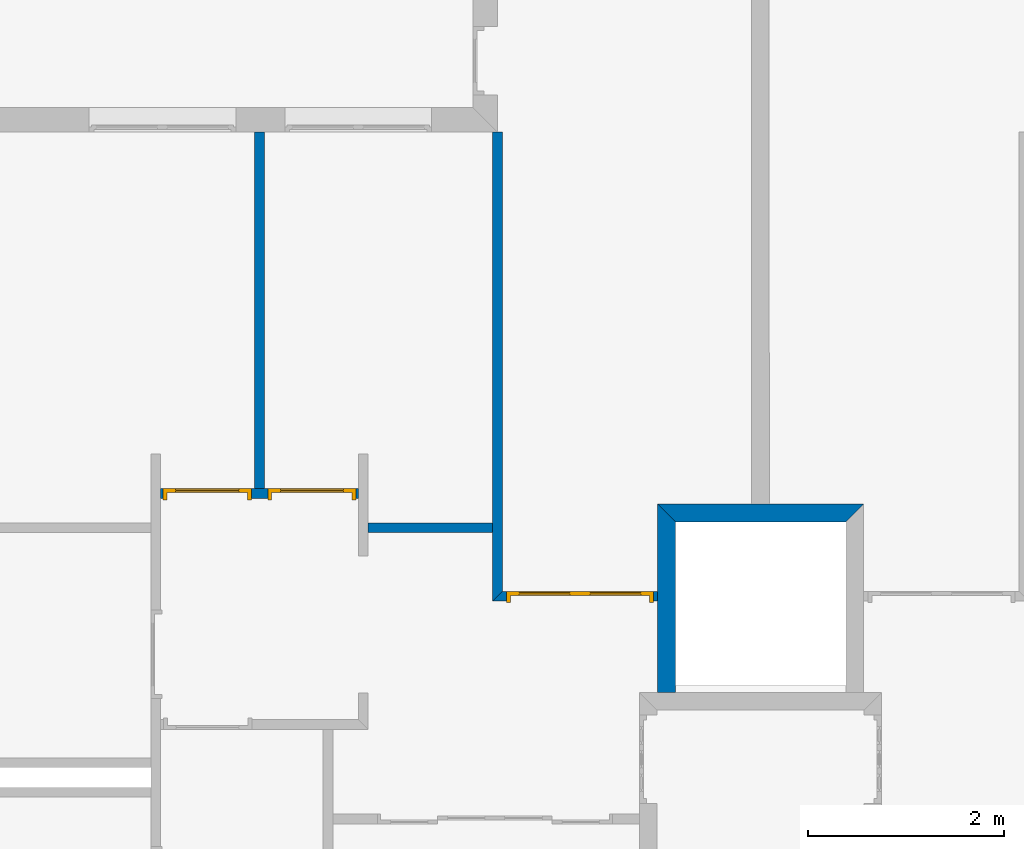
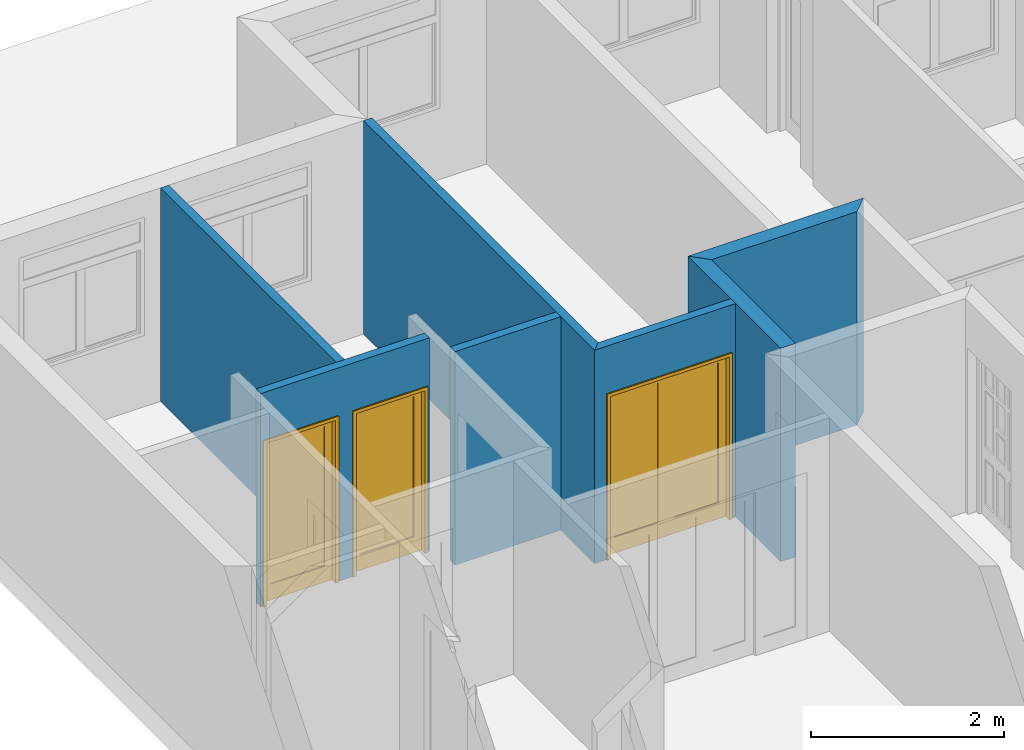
# One storey, part 9 of 12: 7 walls, 3 doors, 3 openings.
"""IFC2X3 building model written with IfcOpenShell, lengths in metres."""

import ifcopenshell
import ifcopenshell.guid

model = None  # the IFC model being written
_history = None  # IfcOwnerHistory: only IFC2X3 demands one
_inside = {}  # id of a spatial element -> (the spatial element, [elements in it])
_under = {}  # id of a project, library or spatial element -> (it, [spatial elements below it])
_declared = {}  # id of a project -> (the project, [libraries it declares])
_typed = {}  # id of a type object -> (the type object, [elements of that type])
_made_of = {}  # id of a material, layer set ... -> (it, [elements and type objects made of it])


def new_model(schema):
    """Start an empty IFC model of exactly this schema.

    Asked for "IFC4X3", IfcOpenShell would pick the latest addendum, in which some entities
    have other attributes; the version numbers below select the first issue.
    IFC2X3 requires an IfcOwnerHistory on every rooted entity: one is made here for all.
    """
    global model, _history
    if schema == "IFC4X3":
        model = ifcopenshell.file(schema_version=(4, 3, 0, 0))
    else:
        model = ifcopenshell.file(schema=schema)
    _inside.clear()
    _under.clear()
    _declared.clear()
    _typed.clear()
    _made_of.clear()
    _history = None
    if model.schema == "IFC2X3":
        org = make("IfcOrganization", Name="unknown")
        user = make(
            "IfcPersonAndOrganization",
            ThePerson=make("IfcPerson", FamilyName="unknown"),
            TheOrganization=org,
        )
        app = make(
            "IfcApplication",
            ApplicationDeveloper=org,
            Version="unknown",
            ApplicationFullName="unknown",
            ApplicationIdentifier="unknown",
        )
        _history = make(
            "IfcOwnerHistory",
            OwningUser=user,
            OwningApplication=app,
            ChangeAction="ADDED",
            CreationDate=0,
        )
    return model


def make(cls, **values):
    """One entity of the class cls with the attributes given. An attribute that is None is left unset."""
    return model.create_entity(
        cls, **{name: value for name, value in values.items() if value is not None}
    )


def entity(cls, *values):
    """Any entity or typed value of the class cls, its attributes in the order of the schema. None: left unset."""
    e = model.create_entity(cls)
    for i, value in enumerate(values):
        if value is not None:
            e[i] = value
    return e


def rooted(cls, **values):
    """An entity with a GlobalId (a new one), such as an element, a storey or a relation."""
    return make(cls, GlobalId=ifcopenshell.guid.new(), OwnerHistory=_history, **values)


def si_unit(unit_type, name, prefix=None):
    """IfcSIUnit, for example si_unit("LENGTHUNIT", "METRE", prefix="MILLI")."""
    return make("IfcSIUnit", UnitType=unit_type, Prefix=prefix, Name=name)


def converted_unit(unit_type, name, factor, base, dimensions=None, offset=None):
    """IfcConversionBasedUnit, such as the inch: factor (a typed value) times the base unit."""
    return make(
        "IfcConversionBasedUnit"
        if offset is None
        else "IfcConversionBasedUnitWithOffset",
        ConversionOffset=offset,
        Dimensions=None
        if dimensions is None
        else entity("IfcDimensionalExponents", *dimensions),
        UnitType=unit_type,
        Name=name,
        ConversionFactor=make(
            "IfcMeasureWithUnit", ValueComponent=factor, UnitComponent=base
        ),
    )


def assignment(units):
    """IfcUnitAssignment: the units of a project."""
    return None if units is None else make("IfcUnitAssignment", Units=units)


def point(xyz):
    """IfcCartesianPoint."""
    return None if xyz is None else make("IfcCartesianPoint", Coordinates=xyz)


def direction(xyz):
    """IfcDirection."""
    return None if xyz is None else make("IfcDirection", DirectionRatios=xyz)


def frame(location, z_axis=None, x_axis=None):
    """IfcAxis2Placement3D, a coordinate frame: its origin and axes. An axis left out is left unset."""
    return make(
        "IfcAxis2Placement3D",
        Location=point(location),
        Axis=direction(z_axis),
        RefDirection=direction(x_axis),
    )


def frame_2d(location, x_axis=None):
    """IfcAxis2Placement2D, a coordinate frame in the plane: its origin and x axis."""
    return make(
        "IfcAxis2Placement2D", Location=point(location), RefDirection=direction(x_axis)
    )


def origin_with_axes():
    """The frame at (0, 0, 0) with the z axis (0, 0, 1) and the x axis (1, 0, 0) written out."""
    return frame((0.0, 0.0, 0.0), z_axis=(0.0, 0.0, 1.0), x_axis=(1.0, 0.0, 0.0))


def place(relative_to, where):
    """IfcLocalPlacement: puts the frame where relative to a parent placement (None: the world)."""
    return make(
        "IfcLocalPlacement", PlacementRelTo=relative_to, RelativePlacement=where
    )


def context(
    kind, dimensions, precision=None, world=None, true_north=None, identifier=None
):
    """IfcGeometricRepresentationContext, for example the 3D "Model" context."""
    return make(
        "IfcGeometricRepresentationContext",
        ContextIdentifier=identifier,
        ContextType=kind,
        CoordinateSpaceDimension=dimensions,
        Precision=precision,
        WorldCoordinateSystem=world,
        TrueNorth=true_north,
    )


def project(units=None, contexts=None):
    """IfcProject with its units and contexts."""
    return rooted(
        "IfcProject",
        Name="project",
        RepresentationContexts=contexts,
        UnitsInContext=assignment(units),
    )


def spatial(cls, under=None, at=None, **own):
    """A site, building, storey or space (cls), placed at a placement, below another one or the project."""
    s = rooted(cls, ObjectPlacement=at, **own)
    if under is not None:
        _under.setdefault(under.id(), (under, []))[1].append(s)
    return s


def polyline(points):
    """IfcPolyline through the points."""
    return make("IfcPolyline", Points=[point(p) for p in points])


def profile(cls, at=None, kind="AREA", **sizes):
    """A parametric profile (cls). Its sizes go by their IFC names, for example OverallWidth=200.0."""
    return make(cls, ProfileType=kind, Position=at, **sizes)


def rectangle(**sizes):
    """IfcRectangleProfileDef."""
    return profile("IfcRectangleProfileDef", **sizes)


def outline(outer, holes=None, kind="AREA"):
    """IfcArbitraryClosedProfileDef: a profile drawn as a closed curve; with holes, ...WithVoids."""
    if holes is None:
        return make("IfcArbitraryClosedProfileDef", ProfileType=kind, OuterCurve=outer)
    return make(
        "IfcArbitraryProfileDefWithVoids",
        ProfileType=kind,
        OuterCurve=outer,
        InnerCurves=holes,
    )


def extrude(swept, where, along, depth):
    """IfcExtrudedAreaSolid: the profile swept, set in the frame where, extruded along a direction by depth."""
    return make(
        "IfcExtrudedAreaSolid",
        SweptArea=swept,
        Position=where,
        ExtrudedDirection=direction(along),
        Depth=depth,
    )


def faces_of(points, faces, orient=None, outer=None):
    """IfcFace entities. A face is a list of loops; a loop is a list of indices into points, from 0.

    orient and outer hold one flag for each loop. By default every Orientation is true, the
    first loop of a face is its IfcFaceOuterBound and the others are IfcFaceBound.
    """
    made = []
    for i, loops in enumerate(faces):
        bounds = []
        for j, loop in enumerate(loops):
            is_outer = j == 0 if outer is None else outer[i][j]
            bounds.append(
                make(
                    "IfcFaceOuterBound" if is_outer else "IfcFaceBound",
                    Bound=make("IfcPolyLoop", Polygon=[points[k] for k in loop]),
                    Orientation=True if orient is None else orient[i][j],
                )
            )
        made.append(make("IfcFace", Bounds=bounds))
    return made


def faceted_brep(points, faces, orient=None, outer=None, voids=None):
    """IfcFacetedBrep: a solid bounded by flat faces; with voids (closed shells), ...WithVoids."""
    shared = [point(p) for p in points]
    hull = make("IfcClosedShell", CfsFaces=faces_of(shared, faces, orient, outer))
    if voids is None:
        return make("IfcFacetedBrep", Outer=hull)
    return make(
        "IfcFacetedBrepWithVoids",
        Outer=hull,
        Voids=[
            make(cls, CfsFaces=faces_of(shared, fs, o, b)) for cls, fs, o, b in voids
        ],
    )


def shape(context_of_items, identifier, shape_type, items):
    """IfcShapeRepresentation: the items that make up one representation, for example the "Body"."""
    return make(
        "IfcShapeRepresentation",
        ContextOfItems=context_of_items,
        RepresentationIdentifier=identifier,
        RepresentationType=shape_type,
        Items=items,
    )


def source(mapping_origin, context_of_items, identifier, shape_type, items):
    """IfcRepresentationMap: a shape defined once, which mapped items show again and again."""
    return make(
        "IfcRepresentationMap",
        MappingOrigin=mapping_origin,
        MappedRepresentation=shape(context_of_items, identifier, shape_type, items),
    )


def transform(
    local_origin,
    x_axis=None,
    y_axis=None,
    z_axis=None,
    scale=None,
    scale2=None,
    scale3=None,
    uniform=True,
):
    """IfcCartesianTransformationOperator3D, or its non-uniform kind. x_axis, y_axis, z_axis: its Axis1, 2, 3."""
    if uniform:
        return make(
            "IfcCartesianTransformationOperator3D",
            Axis1=direction(x_axis),
            Axis2=direction(y_axis),
            LocalOrigin=point(local_origin),
            Scale=scale,
            Axis3=direction(z_axis),
        )
    return make(
        "IfcCartesianTransformationOperator3DnonUniform",
        Axis1=direction(x_axis),
        Axis2=direction(y_axis),
        LocalOrigin=point(local_origin),
        Scale=scale,
        Axis3=direction(z_axis),
        Scale2=scale2,
        Scale3=scale3,
    )


def mapped(mapping_source, mapping_target):
    """IfcMappedItem: shows the shape of a source again, moved by a transform."""
    return make(
        "IfcMappedItem", MappingSource=mapping_source, MappingTarget=mapping_target
    )


def material(Name=None, Category=None):
    """IfcMaterial."""
    return make("IfcMaterial", Name=Name, Category=Category)


def layer(
    of_material, thickness, ventilated=None, Name=None, Category=None, Priority=None
):
    """IfcMaterialLayer: one layer of a wall or slab, of a material (None: an air gap)."""
    return make(
        "IfcMaterialLayer",
        Material=of_material,
        LayerThickness=thickness,
        IsVentilated=ventilated,
        Name=Name,
        Category=Category,
        Priority=Priority,
    )


def layer_set(layers, Name=None):
    """IfcMaterialLayerSet."""
    return make("IfcMaterialLayerSet", MaterialLayers=layers, LayerSetName=Name)


def layer_usage(for_layer_set, set_direction, sense, offset, extent=None):
    """IfcMaterialLayerSetUsage: how a layer set lies in its element."""
    return make(
        "IfcMaterialLayerSetUsage",
        ForLayerSet=for_layer_set,
        LayerSetDirection=set_direction,
        DirectionSense=sense,
        OffsetFromReferenceLine=offset,
        ReferenceExtent=extent,
    )


def made_of(thing, what):
    """Note that an element or type object is made of a material, layer set ...; save() writes the relation."""
    if what is not None:
        _made_of.setdefault(what.id(), (what, []))[1].append(thing)
    return thing


def type_object(cls, material=None, **own):
    """A type object (cls), such as IfcWallType, which elements share."""
    return made_of(rooted(cls, **own), material)


def element(
    cls,
    number,
    at=None,
    inside=None,
    cuts=None,
    type_object=None,
    material=None,
    context=None,
    identifier="Body",
    shape_type=None,
    held_by="IfcProductDefinitionShape",
    body=None,
    shapes=None,
    **own,
):
    """One element of the class cls, such as IfcWall. Its Tag is "e" and its number.

    at: its placement. inside: the storey or other place that contains it. cuts: it is an
    opening in that element (IfcRelVoidsElement). A single representation is given by context,
    identifier, shape_type and body (its items); several are given by shapes. held_by: the class
    of the entity that holds the representations. save() writes the other relations.
    """
    e = rooted(cls, Tag="e%d" % number, ObjectPlacement=at, **own)
    if body is not None:
        shapes = [shape(context, identifier, shape_type, body)]
    if shapes is not None:
        e.Representation = make(held_by, Representations=shapes)
    if inside is not None:
        _inside.setdefault(inside.id(), (inside, []))[1].append(e)
    if cuts is not None:
        rooted(
            "IfcRelVoidsElement", RelatingBuildingElement=cuts, RelatedOpeningElement=e
        )
    if type_object is not None:
        _typed.setdefault(type_object.id(), (type_object, []))[1].append(e)
    return made_of(e, material)


def fill(opening, filler):
    """IfcRelFillsElement: the door or window that sits in an opening."""
    return rooted(
        "IfcRelFillsElement",
        RelatingOpeningElement=opening,
        RelatedBuildingElement=filler,
    )


def aggregate(whole, parts):
    """IfcRelAggregates: a whole, such as a stair, and the parts it consists of."""
    return rooted("IfcRelAggregates", RelatingObject=whole, RelatedObjects=parts)


def save(model, path):
    """Write the relations noted so far, then the file.

    IfcRelAggregates (storeys below a building ...), IfcRelContainedInSpatialStructure (elements
    in a storey), IfcRelDefinesByType, IfcRelAssociatesMaterial and IfcRelDeclares: one each for
    every whole, place, type object, material and project.
    """
    for whole, parts in _under.values():
        aggregate(whole, parts)
    for where, things in _inside.values():
        rooted(
            "IfcRelContainedInSpatialStructure",
            RelatedElements=things,
            RelatingStructure=where,
        )
    for kind, things in _typed.values():
        rooted("IfcRelDefinesByType", RelatedObjects=things, RelatingType=kind)
    for what, things in _made_of.values():
        rooted("IfcRelAssociatesMaterial", RelatedObjects=things, RelatingMaterial=what)
    for by, libraries in _declared.values():
        rooted("IfcRelDeclares", RelatingContext=by, RelatedDefinitions=libraries)
    model.write(path)


model = new_model("IFC2X3")

# Units and contexts
context_of_model = context(None, 3, precision=1e-05, world=origin_with_axes(), true_north=direction((6.123234e-17, 1.0)))
plan_context = context("Plan", 3, precision=1e-05, world=origin_with_axes(), true_north=direction((6.123234e-17, 1.0)))
model_context = context("Model", 3, precision=1e-05, world=origin_with_axes(), true_north=direction((6.123234e-17, 1.0)))
ifc_project = project(units=[si_unit("LENGTHUNIT", "METRE"), si_unit("AREAUNIT", "SQUARE_METRE"), si_unit("VOLUMEUNIT", "CUBIC_METRE"), converted_unit("PLANEANGLEUNIT", "DEGREE", entity("IfcPlaneAngleMeasure", 0.017453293), si_unit("PLANEANGLEUNIT", "RADIAN"), dimensions=[0, 0, 0, 0, 0, 0, 0]), si_unit("SOLIDANGLEUNIT", "STERADIAN"), si_unit("MASSUNIT", "GRAM"), si_unit("TIMEUNIT", "SECOND"), si_unit("THERMODYNAMICTEMPERATUREUNIT", "DEGREE_CELSIUS"), si_unit("LUMINOUSINTENSITYUNIT", "LUMEN")], contexts=[context_of_model, plan_context, model_context])

# Site, building, storey
site_placement = place(None, origin_with_axes())
site = spatial("IfcSite", under=ifc_project, at=site_placement, Name="Por defecto Sitio", CompositionType="ELEMENT")
building_placement = place(site_placement, origin_with_axes())
building = spatial("IfcBuilding", under=site, at=building_placement, Name="Por defecto Edificio", CompositionType="ELEMENT")
storey_placement = place(building_placement, frame((0.0, 0.0, 4.2), z_axis=(0.0, 0.0, 1.0), x_axis=(1.0, 0.0, 0.0)))
storey = spatial("IfcBuildingStorey", under=building, at=storey_placement, Name="Primera", CompositionType="ELEMENT", Elevation=4.2)

# Walls
ifc_material = material(Name="Ladrillo común")
ifc_layer_1 = layer(ifc_material, 0.18, ventilated="UNKNOWN")
ifc_layer_set_1 = layer_set([ifc_layer_1], Name="Ladrillo común")
ifc_layer_usage_1 = layer_usage(ifc_layer_set_1, "AXIS2", "NEGATIVE", 0.0)
wall_type_1 = type_object("IfcWallType", Name="Ladrillo común", PredefinedType="NOTDEFINED")
wall_1_placement = place(storey_placement, frame((6.965, 7.2976562, 0.0), z_axis=(0.0, 0.0, 1.0), x_axis=(0.0, 1.0, 0.0)))
element("IfcWallStandardCase", 1, at=wall_1_placement, inside=storey, type_object=wall_type_1, material=ifc_layer_usage_1, Name="Muro-011", context=context_of_model, shape_type="SweptSolid", body=[
    extrude(outline(polyline([(0.18, -0.18), (1.9231052, -0.18), (2.1031052, 0.0), (0.18, 8.8817842e-16), (0.18, -0.18)])), origin_with_axes(), (0.0, 0.0, 1.0), 2.7),
])
ifc_layer_usage_2 = layer_usage(ifc_layer_set_1, "AXIS2", "NEGATIVE", 0.0)
wall_2_placement = place(storey_placement, frame((6.965, 9.4007615, 0.0), z_axis=(0.0, 0.0, 1.0), x_axis=(1.0, 0.0, 0.0)))
element("IfcWallStandardCase", 2, at=wall_2_placement, inside=storey, type_object=wall_type_1, material=ifc_layer_usage_2, Name="Muro-012", context=context_of_model, shape_type="SweptSolid", body=[
    extrude(outline(polyline([(0.18, -0.18), (1.92, -0.18), (2.1, 0.0), (-8.8817842e-16, 0.0), (0.18, -0.18)])), origin_with_axes(), (0.0, 0.0, 1.0), 2.7),
])
ifc_layer_2 = layer(ifc_material, 0.1, ventilated="UNKNOWN")
ifc_layer_set_2 = layer_set([ifc_layer_2], Name="Ladrillo común")
ifc_layer_usage_3 = layer_usage(ifc_layer_set_2, "AXIS2", "POSITIVE", 0.0)
wall_type_2 = type_object("IfcWallType", Name="Ladrillo común", PredefinedType="NOTDEFINED")
wall_3_placement = place(storey_placement, frame((5.2781164, 9.2109196, 0.0), z_axis=(0.0, 0.0, 1.0), x_axis=(-1.0, 0.0, 0.0)))
element("IfcWallStandardCase", 3, at=wall_3_placement, inside=storey, type_object=wall_type_2, material=ifc_layer_usage_3, Name="Muro-027", context=context_of_model, shape_type="SweptSolid", body=[
    extrude(outline(polyline([(0.0, 0.0), (1.2679512, 0.0), (1.2679512, 0.1), (0.0, 0.1), (0.0, 0.0)])), origin_with_axes(), (0.0, 0.0, 1.0), 2.7),
])

# Wall, opening, door
ifc_layer_usage_4 = layer_usage(ifc_layer_set_2, "AXIS2", "POSITIVE", 0.0)
wall_4_placement = place(storey_placement, frame((6.965, 8.5109196, 0.0), z_axis=(0.0, 0.0, 1.0), x_axis=(-1.0, 0.0, 0.0)))
wall_4 = element("IfcWallStandardCase", 4, at=wall_4_placement, inside=storey, type_object=wall_type_2, material=ifc_layer_usage_4, Name="Muro-028", context=context_of_model, shape_type="SweptSolid", body=[
    extrude(outline(polyline([(0.0, 0.0), (1.5868836, 0.0), (1.6868836, 0.1), (2.6645353e-15, 0.1), (0.0, 0.0)])), origin_with_axes(), (0.0, 0.0, 1.0), 2.7),
])
opening_1_placement = place(wall_4_placement, frame((0.7934418, 0.0, 0.0), z_axis=(0.0, 0.0, 1.0), x_axis=(1.0, 0.0, 0.0)))
opening_1 = element("IfcOpeningElement", 5, at=opening_1_placement, cuts=wall_4, ObjectType="Opening", context=model_context, shape_type="SweptSolid", body=[
    extrude(rectangle(XDim=1.5, YDim=2.1, at=frame_2d((0.0, 1.05), x_axis=(-1.0, 0.0))), frame((0.0, 0.0, 0.0), z_axis=(0.0, 1.0, 0.0), x_axis=(-1.0, 0.0, 0.0)), (0.0, 0.0, 1.0), 0.1),
])
door_style_1 = type_object("IfcDoorStyle", Name="P2 12", ConstructionType="NOTDEFINED", OperationType="DOUBLE_DOOR_SINGLE_SWING", ParameterTakesPrecedence=False, Sizeable=False)
shared_shape_1 = source(origin_with_axes(), model_context, "Body", "Brep", [
    faceted_brep([(0.04, 0.075, 0.0), (0.04, 0.075, 2.06), (0.04, 0.0, 2.06), (0.04, 0.0, 0.0), (0.028, 0.075, 2.06), (0.028, 0.075, 0.0), (0.028, 0.115, 2.06), (0.0, 0.115, 2.06), (0.0, 0.0, 2.06), (0.0, 0.0, 0.0), (0.0, 0.115, 0.0), (0.028, 0.115, 0.0)], [[[0, 1, 2, 3]], [[4, 1, 0, 5]], [[4, 6, 7, 8, 2, 1]], [[9, 3, 2, 8]], [[5, 0, 3, 9, 10, 11]], [[6, 4, 5, 11]], [[6, 11, 10, 7]], [[8, 7, 10, 9]]]),
    faceted_brep([(1.472, 0.075, 2.06), (1.46, 0.075, 2.06), (1.46, 0.0, 2.06), (1.5, 0.0, 2.06), (1.5, 0.115, 2.06), (1.472, 0.115, 2.06), (1.472, 0.075, 0.0), (1.46, 0.075, 0.0), (1.46, 0.0, 0.0), (1.5, 0.0, 0.0), (1.5, 0.115, 0.0), (1.472, 0.115, 0.0)], [[[0, 1, 2, 3, 4, 5]], [[1, 0, 6, 7]], [[1, 7, 8, 2]], [[8, 9, 3, 2]], [[9, 10, 4, 3]], [[11, 5, 4, 10]], [[0, 5, 11, 6]], [[6, 11, 10, 9, 8, 7]]]),
    faceted_brep([(0.028, 0.115, 2.072), (0.028, 0.115, 2.06), (0.0, 0.115, 2.06), (0.0, 0.115, 2.1), (1.5, 0.115, 2.1), (1.5, 0.115, 2.06), (1.472, 0.115, 2.06), (1.472, 0.115, 2.072), (0.028, 0.075, 2.072), (0.028, 0.075, 2.06), (0.04, 0.075, 2.06), (0.04, 0.0, 2.06), (0.0, 0.0, 2.06), (0.0, 0.0, 2.1), (1.5, 0.0, 2.1), (1.5, 0.0, 2.06), (1.472, 0.075, 2.06), (1.46, 0.0, 2.06), (1.46, 0.075, 2.06), (1.472, 0.075, 2.072)], [[[0, 1, 2, 3, 4, 5, 6, 7]], [[1, 0, 8, 9]], [[9, 10, 11, 12, 2, 1]], [[13, 3, 2, 12]], [[14, 4, 3, 13]], [[15, 5, 4, 14]], [[16, 6, 5, 15, 17, 18]], [[7, 6, 16, 19]], [[0, 7, 19, 8]], [[16, 18, 10, 9, 8, 19]], [[10, 18, 17, 11]], [[14, 13, 12, 11, 17, 15]]]),
    faceted_brep([(1.472, 0.115, 0.2), (1.472, 0.075, 0.2), (1.372, 0.075, 0.2), (1.372, 0.115, 0.2), (1.472, 0.115, 1.972), (1.472, 0.075, 1.972), (1.372, 0.075, 1.972), (1.372, 0.115, 1.972)], [[[0, 1, 2, 3]], [[4, 5, 1, 0]], [[1, 5, 6, 2]], [[3, 2, 6, 7]], [[0, 3, 7, 4]], [[7, 6, 5, 4]]]),
    faceted_brep([(0.751, 0.115, 0.2), (0.751, 0.075, 0.2), (0.751, 0.075, 1.972), (0.751, 0.115, 1.972), (0.851, 0.115, 0.2), (0.851, 0.075, 0.2), (0.851, 0.075, 1.972), (0.851, 0.115, 1.972)], [[[0, 1, 2, 3]], [[4, 5, 1, 0]], [[1, 5, 6, 2]], [[3, 2, 6, 7]], [[0, 3, 7, 4]], [[7, 6, 5, 4]]]),
    faceted_brep([(1.472, 0.115, 0.0), (1.472, 0.075, 0.0), (0.751, 0.075, 0.0), (0.751, 0.115, 0.0), (1.472, 0.115, 0.2), (1.472, 0.075, 0.2), (1.372, 0.075, 0.2), (0.851, 0.075, 0.2), (0.751, 0.075, 0.2), (0.751, 0.115, 0.2), (0.851, 0.115, 0.2), (1.372, 0.115, 0.2)], [[[0, 1, 2, 3]], [[4, 5, 1, 0]], [[1, 5, 6, 7, 8, 2]], [[3, 2, 8, 9]], [[0, 3, 9, 10, 11, 4]], [[11, 6, 5, 4]], [[10, 7, 6, 11]], [[9, 8, 7, 10]]]),
    faceted_brep([(1.472, 0.115, 2.072), (1.472, 0.075, 2.072), (1.472, 0.075, 1.972), (1.472, 0.115, 1.972), (0.751, 0.115, 2.072), (0.751, 0.075, 2.072), (0.751, 0.075, 1.972), (0.851, 0.075, 1.972), (1.372, 0.075, 1.972), (1.372, 0.115, 1.972), (0.851, 0.115, 1.972), (0.751, 0.115, 1.972)], [[[0, 1, 2, 3]], [[4, 5, 1, 0]], [[1, 5, 6, 7, 8, 2]], [[3, 2, 8, 9]], [[0, 3, 9, 10, 11, 4]], [[11, 6, 5, 4]], [[10, 7, 6, 11]], [[9, 8, 7, 10]]]),
    faceted_brep([(1.372, 0.101, 0.2), (1.372, 0.089, 0.2), (0.851, 0.089, 0.2), (0.851, 0.101, 0.2), (1.372, 0.101, 1.972), (1.372, 0.089, 1.972), (0.851, 0.089, 1.972), (0.851, 0.101, 1.972)], [[[0, 1, 2, 3]], [[4, 5, 1, 0]], [[1, 5, 6, 2]], [[3, 2, 6, 7]], [[0, 3, 7, 4]], [[7, 6, 5, 4]]]),
    faceted_brep([(0.028, 0.115, 0.2), (0.128, 0.115, 0.2), (0.128, 0.075, 0.2), (0.028, 0.075, 0.2), (0.028, 0.115, 1.972), (0.128, 0.115, 1.972), (0.128, 0.075, 1.972), (0.028, 0.075, 1.972)], [[[0, 1, 2, 3]], [[0, 4, 5, 1]], [[1, 5, 6, 2]], [[3, 2, 6, 7]], [[4, 0, 3, 7]], [[5, 4, 7, 6]]]),
    faceted_brep([(0.749, 0.115, 0.2), (0.749, 0.115, 1.972), (0.749, 0.075, 1.972), (0.749, 0.075, 0.2), (0.649, 0.115, 0.2), (0.649, 0.115, 1.972), (0.649, 0.075, 1.972), (0.649, 0.075, 0.2)], [[[0, 1, 2, 3]], [[0, 4, 5, 1]], [[1, 5, 6, 2]], [[3, 2, 6, 7]], [[4, 0, 3, 7]], [[5, 4, 7, 6]]]),
    faceted_brep([(0.028, 0.115, 0.0), (0.749, 0.115, 0.0), (0.749, 0.075, 0.0), (0.028, 0.075, 0.0), (0.028, 0.115, 0.2), (0.128, 0.115, 0.2), (0.649, 0.115, 0.2), (0.749, 0.115, 0.2), (0.749, 0.075, 0.2), (0.649, 0.075, 0.2), (0.128, 0.075, 0.2), (0.028, 0.075, 0.2)], [[[0, 1, 2, 3]], [[0, 4, 5, 6, 7, 1]], [[1, 7, 8, 2]], [[3, 2, 8, 9, 10, 11]], [[4, 0, 3, 11]], [[5, 4, 11, 10]], [[6, 5, 10, 9]], [[7, 6, 9, 8]]]),
    faceted_brep([(0.028, 0.115, 2.072), (0.028, 0.115, 1.972), (0.028, 0.075, 1.972), (0.028, 0.075, 2.072), (0.749, 0.115, 2.072), (0.749, 0.115, 1.972), (0.649, 0.115, 1.972), (0.128, 0.115, 1.972), (0.128, 0.075, 1.972), (0.649, 0.075, 1.972), (0.749, 0.075, 1.972), (0.749, 0.075, 2.072)], [[[0, 1, 2, 3]], [[0, 4, 5, 6, 7, 1]], [[1, 7, 8, 2]], [[3, 2, 8, 9, 10, 11]], [[4, 0, 3, 11]], [[5, 4, 11, 10]], [[6, 5, 10, 9]], [[7, 6, 9, 8]]]),
    faceted_brep([(0.128, 0.101, 0.2), (0.649, 0.101, 0.2), (0.649, 0.089, 0.2), (0.128, 0.089, 0.2), (0.128, 0.101, 1.972), (0.649, 0.101, 1.972), (0.649, 0.089, 1.972), (0.128, 0.089, 1.972)], [[[0, 1, 2, 3]], [[0, 4, 5, 1]], [[1, 5, 6, 2]], [[3, 2, 6, 7]], [[4, 0, 3, 7]], [[5, 4, 7, 6]]]),
])
door_1_placement = place(opening_1_placement, frame((0.75, 0.115, 0.0), z_axis=(0.0, 0.0, 1.0), x_axis=(-1.0, 0.0, 0.0)))
door_1 = element("IfcDoor", 6, at=door_1_placement, inside=storey, type_object=door_style_1, Name="P27", OverallHeight=2.1, OverallWidth=1.5, context=model_context, shape_type="MappedRepresentation", body=[
    mapped(shared_shape_1, transform((0.0, 0.0, 0.0), scale=1.0)),
])
fill(opening_1, door_1)

# Wall
ifc_layer_usage_5 = layer_usage(ifc_layer_set_2, "AXIS2", "NEGATIVE", 0.0)
wall_5_placement = place(storey_placement, frame((5.2781164, 8.5109196, 0.0), z_axis=(0.0, 0.0, 1.0), x_axis=(0.0, 1.0, 0.0)))
element("IfcWallStandardCase", 7, at=wall_5_placement, inside=storey, type_object=wall_type_2, material=ifc_layer_usage_5, Name="Muro-031", context=context_of_model, shape_type="SweptSolid", body=[
    extrude(outline(polyline([(0.0, -0.1), (4.688253, -0.1), (4.688253, 0.0), (-0.1, 0.0), (0.0, -0.1)])), origin_with_axes(), (0.0, 0.0, 1.0), 2.7),
])

# Wall, openings, doors
ifc_layer_usage_6 = layer_usage(ifc_layer_set_2, "AXIS2", "POSITIVE", 0.0)
wall_6_placement = place(storey_placement, frame((1.8901652, 9.4609196, 0.0), z_axis=(0.0, 0.0, 1.0), x_axis=(1.0, 0.0, 0.0)))
wall_6 = element("IfcWallStandardCase", 8, at=wall_6_placement, inside=storey, type_object=wall_type_2, material=ifc_layer_usage_6, Name="Muro-038", context=context_of_model, shape_type="SweptSolid", body=[
    extrude(outline(polyline([(0.0, 0.0), (2.02, 0.0), (2.02, 0.1), (0.0, 0.1), (0.0, 0.0)])), origin_with_axes(), (0.0, 0.0, 1.0), 2.7),
])
opening_2_placement = place(wall_6_placement, frame((1.5448045, 0.0, 0.0), z_axis=(0.0, 0.0, 1.0), x_axis=(1.0, 0.0, 0.0)))
opening_2 = element("IfcOpeningElement", 9, at=opening_2_placement, cuts=wall_6, ObjectType="Opening", context=model_context, shape_type="SweptSolid", body=[
    extrude(rectangle(XDim=0.9, YDim=2.1, at=frame_2d((0.0, 1.05), x_axis=(-1.0, 0.0))), frame((0.0, 0.0, 0.0), z_axis=(0.0, 1.0, 0.0), x_axis=(-1.0, 0.0, 0.0)), (0.0, 0.0, 1.0), 0.1),
])
opening_3_placement = place(wall_6_placement, frame((0.47680965, 0.0, 0.0), z_axis=(0.0, 0.0, 1.0), x_axis=(1.0, 0.0, 0.0)))
opening_3 = element("IfcOpeningElement", 10, at=opening_3_placement, cuts=wall_6, ObjectType="Opening", context=model_context, shape_type="SweptSolid", body=[
    extrude(rectangle(XDim=0.9, YDim=2.1, at=frame_2d((1.110223e-16, 1.05), x_axis=(1.0, 0.0))), frame((0.0, 0.0, 0.0), z_axis=(0.0, 1.0, 0.0), x_axis=(-1.0, 0.0, 0.0)), (0.0, 0.0, 1.0), 0.1),
])
door_style_2 = type_object("IfcDoorStyle", Name="P1 12", ConstructionType="NOTDEFINED", OperationType="SINGLE_SWING_RIGHT", ParameterTakesPrecedence=False, Sizeable=False)
shared_shape_2 = source(origin_with_axes(), model_context, "Body", "Brep", [
    faceted_brep([(0.04, 0.075, -2.4492936e-18), (0.04, 0.075, 2.06), (0.04, 0.0, 2.06), (0.04, 0.0, -7.0417191e-18), (0.028, 0.075, 2.06), (0.028, 0.075, -2.4492936e-18), (0.028, 0.115, 2.06), (0.0, 0.115, 2.06), (0.0, 0.0, 2.06), (0.0, 0.0, 0.0), (0.0, 0.115, 3.3744595e-33), (0.028, 0.115, 3.2707143e-33)], [[[0, 1, 2, 3]], [[4, 1, 0, 5]], [[4, 6, 7, 8, 2, 1]], [[9, 3, 2, 8]], [[5, 0, 3, 9, 10, 11]], [[6, 4, 5, 11]], [[6, 11, 10, 7]], [[8, 7, 10, 9]]]),
    faceted_brep([(0.872, 0.075, 2.06), (0.86, 0.075, 2.06), (0.86, 0.0, 2.06), (0.9, 0.0, 2.06), (0.9, 0.115, 2.06), (0.872, 0.115, 2.06), (0.872, 0.075, -2.4492936e-18), (0.86, 0.075, -2.4492936e-18), (0.86, 0.0, -7.0417191e-18), (0.9, 0.0, -7.0417191e-18), (0.9, 0.115, -3.3744595e-33), (0.872, 0.115, -3.1644931e-33)], [[[0, 1, 2, 3, 4, 5]], [[1, 0, 6, 7]], [[1, 7, 8, 2]], [[8, 9, 3, 2]], [[9, 10, 4, 3]], [[11, 5, 4, 10]], [[0, 5, 11, 6]], [[6, 11, 10, 9, 8, 7]]]),
    faceted_brep([(0.028, 0.115, 2.072), (0.028, 0.115, 2.06), (0.0, 0.115, 2.06), (0.0, 0.115, 2.1), (0.9, 0.115, 2.1), (0.9, 0.115, 2.06), (0.872, 0.115, 2.06), (0.872, 0.115, 2.072), (0.028, 0.075, 2.072), (0.028, 0.075, 2.06), (0.04, 0.075, 2.06), (0.04, 0.0, 2.06), (0.0, 0.0, 2.06), (0.0, 0.0, 2.1), (0.9, 0.0, 2.1), (0.9, 0.0, 2.06), (0.872, 0.075, 2.06), (0.86, 0.0, 2.06), (0.86, 0.075, 2.06), (0.872, 0.075, 2.072)], [[[0, 1, 2, 3, 4, 5, 6, 7]], [[1, 0, 8, 9]], [[9, 10, 11, 12, 2, 1]], [[13, 3, 2, 12]], [[14, 4, 3, 13]], [[15, 5, 4, 14]], [[16, 6, 5, 15, 17, 18]], [[7, 6, 16, 19]], [[0, 7, 19, 8]], [[16, 18, 10, 9, 8, 19]], [[10, 18, 17, 11]], [[14, 13, 12, 11, 17, 15]]]),
    faceted_brep([(0.872, 0.115, 0.2), (0.872, 0.075, 0.2), (0.772, 0.075, 0.2), (0.772, 0.115, 0.2), (0.872, 0.115, 1.972), (0.872, 0.075, 1.972), (0.772, 0.075, 1.972), (0.772, 0.115, 1.972)], [[[0, 1, 2, 3]], [[4, 5, 1, 0]], [[1, 5, 6, 2]], [[3, 2, 6, 7]], [[0, 3, 7, 4]], [[7, 6, 5, 4]]]),
    faceted_brep([(0.028, 0.115, 0.2), (0.028, 0.075, 0.2), (0.028, 0.075, 1.972), (0.028, 0.115, 1.972), (0.128, 0.115, 0.2), (0.128, 0.075, 0.2), (0.128, 0.075, 1.972), (0.128, 0.115, 1.972)], [[[0, 1, 2, 3]], [[4, 5, 1, 0]], [[1, 5, 6, 2]], [[3, 2, 6, 7]], [[0, 3, 7, 4]], [[7, 6, 5, 4]]]),
    faceted_brep([(0.872, 0.115, -3.1644931e-33), (0.872, 0.075, -2.4492936e-18), (0.028, 0.075, -2.4492936e-18), (0.028, 0.115, 3.1644931e-33), (0.872, 0.115, 0.2), (0.872, 0.075, 0.2), (0.772, 0.075, 0.2), (0.128, 0.075, 0.2), (0.028, 0.075, 0.2), (0.028, 0.115, 0.2), (0.128, 0.115, 0.2), (0.772, 0.115, 0.2)], [[[0, 1, 2, 3]], [[4, 5, 1, 0]], [[1, 5, 6, 7, 8, 2]], [[3, 2, 8, 9]], [[0, 3, 9, 10, 11, 4]], [[11, 6, 5, 4]], [[10, 7, 6, 11]], [[9, 8, 7, 10]]]),
    faceted_brep([(0.872, 0.115, 2.072), (0.872, 0.075, 2.072), (0.872, 0.075, 1.972), (0.872, 0.115, 1.972), (0.028, 0.115, 2.072), (0.028, 0.075, 2.072), (0.028, 0.075, 1.972), (0.128, 0.075, 1.972), (0.772, 0.075, 1.972), (0.772, 0.115, 1.972), (0.128, 0.115, 1.972), (0.028, 0.115, 1.972)], [[[0, 1, 2, 3]], [[4, 5, 1, 0]], [[1, 5, 6, 7, 8, 2]], [[3, 2, 8, 9]], [[0, 3, 9, 10, 11, 4]], [[11, 6, 5, 4]], [[10, 7, 6, 11]], [[9, 8, 7, 10]]]),
    faceted_brep([(0.772, 0.101, 0.2), (0.772, 0.089, 0.2), (0.128, 0.089, 0.2), (0.128, 0.101, 0.2), (0.772, 0.101, 1.972), (0.772, 0.089, 1.972), (0.128, 0.089, 1.972), (0.128, 0.101, 1.972)], [[[0, 1, 2, 3]], [[4, 5, 1, 0]], [[1, 5, 6, 2]], [[3, 2, 6, 7]], [[0, 3, 7, 4]], [[7, 6, 5, 4]]]),
])
door_2_placement = place(opening_3_placement, frame((-0.45, -0.015, 0.0), z_axis=(0.0, 0.0, 1.0), x_axis=(1.0, 0.0, 0.0)))
door_2 = element("IfcDoor", 11, at=door_2_placement, inside=storey, type_object=door_style_2, Name="P16", OverallHeight=2.1, OverallWidth=0.9, context=model_context, shape_type="MappedRepresentation", body=[
    mapped(shared_shape_2, transform((0.0, 0.0, 0.0), scale=1.0)),
])
fill(opening_3, door_2)
door_style_3 = type_object("IfcDoorStyle", Name="P1 12", ConstructionType="NOTDEFINED", OperationType="SINGLE_SWING_LEFT", ParameterTakesPrecedence=False, Sizeable=False)
shared_shape_3 = source(origin_with_axes(), model_context, "Body", "Brep", [
    faceted_brep([(0.86, 0.075, 0.0), (0.86, 0.0, 0.0), (0.86, 0.0, 2.06), (0.86, 0.075, 2.06), (0.872, 0.075, 0.0), (0.872, 0.115, 0.0), (0.9, 0.115, 0.0), (0.9, 0.0, 0.0), (0.9, 0.0, 2.06), (0.872, 0.075, 2.06), (0.9, 0.115, 2.06), (0.872, 0.115, 2.06)], [[[0, 1, 2, 3]], [[4, 5, 6, 7, 1, 0]], [[7, 8, 2, 1]], [[9, 3, 2, 8, 10, 11]], [[9, 4, 0, 3]], [[11, 5, 4, 9]], [[11, 10, 6, 5]], [[8, 7, 6, 10]]]),
    faceted_brep([(0.028, 0.075, 2.06), (0.028, 0.115, 2.06), (-4.4408921e-16, 0.115, 2.06), (-4.4408921e-16, 0.0, 2.06), (0.04, 0.0, 2.06), (0.04, 0.075, 2.06), (0.028, 0.075, 0.0), (0.028, 0.115, 0.0), (-4.4408921e-16, 0.115, 0.0), (0.0, 0.0, 0.0), (0.04, 0.0, 0.0), (0.04, 0.075, 0.0)], [[[0, 1, 2, 3, 4, 5]], [[0, 6, 7, 1]], [[7, 8, 2, 1]], [[9, 3, 2, 8]], [[10, 4, 3, 9]], [[5, 4, 10, 11]], [[5, 11, 6, 0]], [[6, 11, 10, 9, 8, 7]]]),
    faceted_brep([(0.872, 0.115, 2.072), (0.028, 0.115, 2.072), (0.028, 0.115, 2.06), (-4.4408921e-16, 0.115, 2.06), (-4.4408921e-16, 0.115, 2.1), (0.9, 0.115, 2.1), (0.9, 0.115, 2.06), (0.872, 0.115, 2.06), (0.872, 0.075, 2.072), (0.028, 0.075, 2.072), (0.028, 0.075, 2.06), (0.04, 0.075, 2.06), (0.04, 0.0, 2.06), (-4.4408921e-16, 0.0, 2.06), (-4.4408921e-16, 0.0, 2.1), (0.9, 0.0, 2.1), (0.9, 0.0, 2.06), (0.872, 0.075, 2.06), (0.86, 0.0, 2.06), (0.86, 0.075, 2.06)], [[[0, 1, 2, 3, 4, 5, 6, 7]], [[0, 8, 9, 1]], [[1, 9, 10, 2]], [[10, 11, 12, 13, 3, 2]], [[13, 14, 4, 3]], [[14, 15, 5, 4]], [[15, 16, 6, 5]], [[17, 7, 6, 16, 18, 19]], [[7, 17, 8, 0]], [[10, 9, 8, 17, 19, 11]], [[19, 18, 12, 11]], [[14, 13, 12, 18, 16, 15]]]),
    faceted_brep([(0.028, 0.115, 0.2), (0.128, 0.115, 0.2), (0.128, 0.075, 0.2), (0.028, 0.075, 0.2), (0.028, 0.115, 1.972), (0.128, 0.115, 1.972), (0.128, 0.075, 1.972), (0.028, 0.075, 1.972)], [[[0, 1, 2, 3]], [[0, 4, 5, 1]], [[1, 5, 6, 2]], [[3, 2, 6, 7]], [[4, 0, 3, 7]], [[5, 4, 7, 6]]]),
    faceted_brep([(0.872, 0.115, 0.2), (0.872, 0.115, 1.972), (0.872, 0.075, 1.972), (0.872, 0.075, 0.2), (0.772, 0.115, 0.2), (0.772, 0.115, 1.972), (0.772, 0.075, 1.972), (0.772, 0.075, 0.2)], [[[0, 1, 2, 3]], [[0, 4, 5, 1]], [[1, 5, 6, 2]], [[3, 2, 6, 7]], [[4, 0, 3, 7]], [[5, 4, 7, 6]]]),
    faceted_brep([(0.028, 0.115, 0.0), (0.872, 0.115, 0.0), (0.872, 0.075, 0.0), (0.028, 0.075, 0.0), (0.028, 0.115, 0.2), (0.128, 0.115, 0.2), (0.772, 0.115, 0.2), (0.872, 0.115, 0.2), (0.872, 0.075, 0.2), (0.772, 0.075, 0.2), (0.128, 0.075, 0.2), (0.028, 0.075, 0.2)], [[[0, 1, 2, 3]], [[0, 4, 5, 6, 7, 1]], [[1, 7, 8, 2]], [[3, 2, 8, 9, 10, 11]], [[4, 0, 3, 11]], [[5, 4, 11, 10]], [[6, 5, 10, 9]], [[7, 6, 9, 8]]]),
    faceted_brep([(0.028, 0.115, 2.072), (0.028, 0.115, 1.972), (0.028, 0.075, 1.972), (0.028, 0.075, 2.072), (0.872, 0.115, 2.072), (0.872, 0.115, 1.972), (0.772, 0.115, 1.972), (0.128, 0.115, 1.972), (0.128, 0.075, 1.972), (0.772, 0.075, 1.972), (0.872, 0.075, 1.972), (0.872, 0.075, 2.072)], [[[0, 1, 2, 3]], [[0, 4, 5, 6, 7, 1]], [[1, 7, 8, 2]], [[3, 2, 8, 9, 10, 11]], [[4, 0, 3, 11]], [[5, 4, 11, 10]], [[6, 5, 10, 9]], [[7, 6, 9, 8]]]),
    faceted_brep([(0.128, 0.101, 0.2), (0.772, 0.101, 0.2), (0.772, 0.089, 0.2), (0.128, 0.089, 0.2), (0.128, 0.101, 1.972), (0.772, 0.101, 1.972), (0.772, 0.089, 1.972), (0.128, 0.089, 1.972)], [[[0, 1, 2, 3]], [[0, 4, 5, 1]], [[1, 5, 6, 2]], [[3, 2, 6, 7]], [[4, 0, 3, 7]], [[5, 4, 7, 6]]]),
])
door_3_placement = place(opening_2_placement, frame((-0.45, -0.015, 0.0), z_axis=(0.0, 0.0, 1.0), x_axis=(1.0, 0.0, 0.0)))
door_3 = element("IfcDoor", 12, at=door_3_placement, inside=storey, type_object=door_style_3, Name="P15", OverallHeight=2.1, OverallWidth=0.9, context=model_context, shape_type="MappedRepresentation", body=[
    mapped(shared_shape_3, transform((0.0, 0.0, 0.0), scale=1.0)),
])
fill(opening_2, door_3)

# Wall
ifc_layer_usage_7 = layer_usage(ifc_layer_set_2, "AXIS2", "POSITIVE", 0.0)
wall_7_placement = place(storey_placement, frame((2.9501652, 9.4609196, 0.0), z_axis=(0.0, 0.0, 1.0), x_axis=(0.0, 1.0, 0.0)))
element("IfcWallStandardCase", 13, at=wall_7_placement, inside=storey, type_object=wall_type_2, material=ifc_layer_usage_7, Name="Muro-039", context=context_of_model, shape_type="SweptSolid", body=[
    extrude(outline(polyline([(0.1, 0.0), (3.738253, 0.0), (3.738253, 0.1), (0.1, 0.1), (0.1, 0.0)])), origin_with_axes(), (0.0, 0.0, 1.0), 2.7),
])

save(model, "model.ifc")
